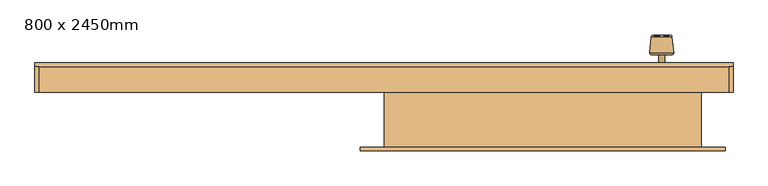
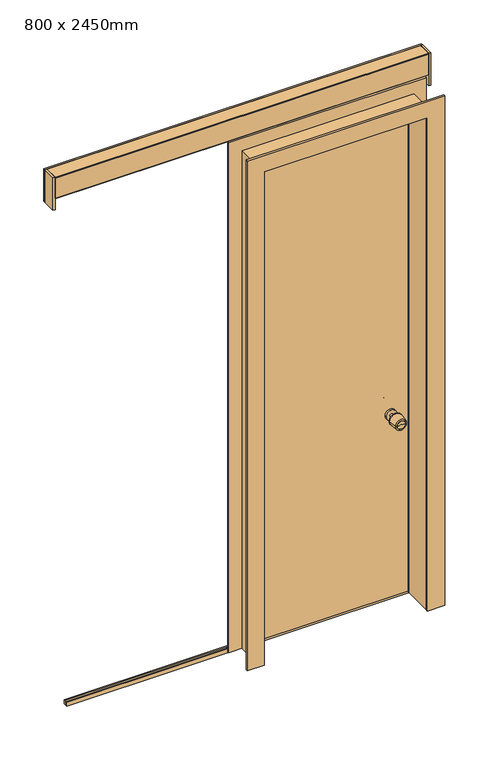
"""IFC4 building model written with IfcOpenShell, lengths in millimetres: door geometry, 单扇推拉门 - 墙外 : 800 x 2450mm."""

from ifc_helpers import new_model, si_unit, point, frame, frame_2d, origin, origin_with_axes, place, context, project, spatial, polyline, circle_curve, ellipse_curve, trimmed, segment, composite_curve, outline, extrude, source, transform, mapped, element, save
from ifc_brep_helpers import plane_surface, revolved_surface, advanced_brep


def door_800_x_2450mm_f909f3a4(model_context):
    return source(origin(), model_context, "Body", "SolidModel", [
        advanced_brep(
        [(300.0, 164.0, 900.0), (275.0, 164.0, 900.0), (325.0, 164.0, 900.0), (320.0, 214.0, 900.0), (280.0, 214.0, 900.0), (300.0, 212.0369945, 900.0), (321.0, 214.0, 900.0), (279.0, 214.0, 900.0), (325.975186, 209.4975186, 900.0), (274.024814, 209.4975186, 900.0), (329.975186, 169.4975186, 900.0), (270.024814, 169.4975186, 900.0)],
        [
            (0, 1),
            (1, 2, circle_curve(frame((300.0, 164.0, 900.0), z_axis=(0.0, -1.0, 0.0), x_axis=(-1.0, 0.0, 0.0)), 25.0)),
            (2, 0),
            (2, 1, circle_curve(frame((300.0, 164.0, 900.0), z_axis=(0.0, -1.0, 0.0), x_axis=(-1.0, 0.0, 0.0)), 25.0)),
            (3, 4, circle_curve(frame((300.0, 214.0, 900.0), z_axis=(0.0, 1.0, 0.0), x_axis=(-1.0, 0.0, 0.0)), 20.0)),
            (4, 5, circle_curve(frame((300.0, 314.9030805, 900.0), z_axis=(0.0, 0.0, 1.0), x_axis=(1.0, 0.0, 0.0)), 102.8660861)),
            (5, 3, circle_curve(frame((300.0, 314.9030805, 900.0), z_axis=(0.0, 0.0, 1.0), x_axis=(-1.0, 0.0, 0.0)), 102.8660861)),
            (4, 3, circle_curve(frame((300.0, 214.0, 900.0), z_axis=(0.0, 1.0, 0.0), x_axis=(-1.0, 0.0, 0.0)), 20.0)),
            (6, 7, circle_curve(frame((300.0, 214.0, 900.0), z_axis=(0.0, 1.0, 0.0), x_axis=(-1.0, 0.0, 0.0)), 21.0)),
            (7, 4),
            (3, 6),
            (7, 6, circle_curve(frame((300.0, 214.0, 900.0), z_axis=(0.0, 1.0, 0.0), x_axis=(-1.0, 0.0, 0.0)), 21.0)),
            (8, 9, circle_curve(frame((300.0, 209.4975186, 900.0), z_axis=(0.0, 1.0, 0.0), x_axis=(-1.0, 0.0, 0.0)), 25.975186)),
            (9, 7, circle_curve(frame((279.0, 209.0, 900.0), z_axis=(0.0, 0.0, -1.0), x_axis=(1.0, 0.0, 0.0)), 5.0)),
            (6, 8, circle_curve(frame((321.0, 209.0, 900.0), z_axis=(0.0, 0.0, -1.0), x_axis=(-1.0, 0.0, 0.0)), 5.0)),
            (9, 8, circle_curve(frame((300.0, 209.4975186, 900.0), z_axis=(0.0, 1.0, 0.0), x_axis=(-1.0, 0.0, 0.0)), 25.975186)),
            (10, 11, circle_curve(frame((300.0, 169.4975186, 900.0), z_axis=(0.0, 1.0, 0.0), x_axis=(-1.0, 0.0, 0.0)), 29.975186)),
            (11, 9),
            (8, 10),
            (11, 10, circle_curve(frame((300.0, 169.4975186, 900.0), z_axis=(0.0, 1.0, 0.0), x_axis=(-1.0, 0.0, 0.0)), 29.975186)),
            (1, 11, circle_curve(frame((275.0, 169.0, 900.0), z_axis=(0.0, 0.0, -1.0), x_axis=(1.0, 0.0, 0.0)), 5.0)),
            (10, 2, circle_curve(frame((325.0, 169.0, 900.0), z_axis=(0.0, 0.0, -1.0), x_axis=(-1.0, 0.0, 0.0)), 5.0)),
        ],
        [
            plane_surface(frame((300.0, 164.0, 900.0), z_axis=(0.0, -1.0, 0.0), x_axis=(-1.0, 0.0, 0.0))),
            revolved_surface(trimmed(ellipse_curve(frame((300.0, 314.9030805, 900.0), z_axis=(0.0, 0.0, -1.0), x_axis=(1.0, 0.0, 0.0)), 102.8660861, 102.8660861), [point((300.0, 212.0369945, 900.0))], [point((280.0, 214.0, 900.0))], True, "CARTESIAN"), (300.0, 212.0369945, 900.0), (0.0, -1.0, 0.0)),
            plane_surface(frame((300.0, 214.0, 900.0), z_axis=(0.0, 1.0, 0.0), x_axis=(-1.0, 0.0, 0.0))),
            revolved_surface(trimmed(ellipse_curve(frame((279.0, 209.0, 900.0), z_axis=(0.0, 0.0, 1.0), x_axis=(1.0, 0.0, 0.0)), 5.0, 5.0), [point((279.0, 214.0, 900.0))], [point((274.024814, 209.4975186, 900.0))], True, "CARTESIAN"), (300.0, 212.0369945, 900.0), (0.0, -1.0, 0.0)),
            revolved_surface(polyline([(274.024814, 209.4975186, 900.0), (270.024814, 169.4975186, 900.0)]), (300.0, 212.0369945, 900.0), (0.0, -1.0, 0.0)),
            revolved_surface(trimmed(ellipse_curve(frame((275.0, 169.0, 900.0), z_axis=(0.0, 0.0, 1.0), x_axis=(1.0, 0.0, 0.0)), 5.0, 5.0), [point((270.024814, 169.4975186, 900.0))], [point((275.0, 164.0, 900.0))], True, "CARTESIAN"), (300.0, 212.0369945, 900.0), (0.0, -1.0, 0.0)),
        ],
        [
            (0, [[1, 2, 3]]),
            (0, [[-3, 4, -1]]),
            (1, [[5, 6, 7]]),
            (1, [[8, -7, -6]]),
            (2, [[9, 10, -5, 11]]),
            (2, [[12, -11, -8, -10]]),
            (3, [[13, 14, -9, 15]]),
            (3, [[16, -15, -12, -14]]),
            (4, [[17, 18, -13, 19]]),
            (4, [[20, -19, -16, -18]]),
            (5, [[-2, 21, -17, 22]]),
            (5, [[-4, -22, -20, -21]]),
        ],
    ),
        extrude(outline(composite_curve([segment(trimmed(circle_curve(frame_2d((900.0, 300.0)), 8.0), [point((900.0, 292.0))], [point((900.0, 308.0))], False, "CARTESIAN"), True, "CONTINUOUS"), segment(trimmed(circle_curve(frame_2d((900.0, 300.0)), 8.0), [point((900.0, 308.0))], [point((900.0, 292.0))], False, "CARTESIAN"), True, "CONTINUOUS")], self_intersect=False)), frame((0.0, 134.0, 0.0), z_axis=(0.0, 1.0, 0.0), x_axis=(0.0, 0.0, 1.0)), (0.0, 0.0, 1.0), 30.0),
        advanced_brep(
        [(329.975186, 38.5024814, 900.0), (270.024814, 38.5024814, 900.0), (275.0, 44.0, 900.0), (325.0, 44.0, 900.0), (325.975186, -1.4975186, 900.0), (274.024814, -1.4975186, 900.0), (321.0, -6.0, 900.0), (279.0, -6.0, 900.0), (320.0, -6.0, 900.0), (280.0, -6.0, 900.0), (300.0, -4.0369945, 900.0), (300.0, 44.0, 900.0)],
        [
            (0, 1, circle_curve(frame((300.0, 38.5024814, 900.0), z_axis=(0.0, 1.0, 0.0), x_axis=(-1.0, 0.0, 0.0)), 29.975186)),
            (1, 2, circle_curve(frame((275.0, 39.0, 900.0), z_axis=(0.0, 0.0, -1.0), x_axis=(1.0, 0.0, 0.0)), 5.0)),
            (2, 3, circle_curve(frame((300.0, 44.0, 900.0), z_axis=(0.0, -1.0, 0.0), x_axis=(-1.0, 0.0, 0.0)), 25.0)),
            (3, 0, circle_curve(frame((325.0, 39.0, 900.0), z_axis=(0.0, 0.0, -1.0), x_axis=(-1.0, 0.0, 0.0)), 5.0)),
            (1, 0, circle_curve(frame((300.0, 38.5024814, 900.0), z_axis=(0.0, 1.0, 0.0), x_axis=(-1.0, 0.0, 0.0)), 29.975186)),
            (3, 2, circle_curve(frame((300.0, 44.0, 900.0), z_axis=(0.0, -1.0, 0.0), x_axis=(-1.0, 0.0, 0.0)), 25.0)),
            (4, 5, circle_curve(frame((300.0, -1.4975186, 900.0), z_axis=(0.0, 1.0, 0.0), x_axis=(-1.0, 0.0, 0.0)), 25.975186)),
            (5, 1),
            (0, 4),
            (5, 4, circle_curve(frame((300.0, -1.4975186, 900.0), z_axis=(0.0, 1.0, 0.0), x_axis=(-1.0, 0.0, 0.0)), 25.975186)),
            (6, 7, circle_curve(frame((300.0, -6.0, 900.0), z_axis=(0.0, 1.0, 0.0), x_axis=(-1.0, 0.0, 0.0)), 21.0)),
            (7, 5, circle_curve(frame((279.0, -1.0, 900.0), z_axis=(0.0, 0.0, -1.0), x_axis=(1.0, 0.0, 0.0)), 5.0)),
            (4, 6, circle_curve(frame((321.0, -1.0, 900.0), z_axis=(0.0, 0.0, -1.0), x_axis=(-1.0, 0.0, 0.0)), 5.0)),
            (7, 6, circle_curve(frame((300.0, -6.0, 900.0), z_axis=(0.0, 1.0, 0.0), x_axis=(-1.0, 0.0, 0.0)), 21.0)),
            (8, 9, circle_curve(frame((300.0, -6.0, 900.0), z_axis=(0.0, 1.0, 0.0), x_axis=(-1.0, 0.0, 0.0)), 20.0)),
            (9, 7),
            (6, 8),
            (9, 8, circle_curve(frame((300.0, -6.0, 900.0), z_axis=(0.0, 1.0, 0.0), x_axis=(-1.0, 0.0, 0.0)), 20.0)),
            (10, 9, circle_curve(frame((300.0, -106.9030805, 900.0), z_axis=(0.0, 0.0, 1.0), x_axis=(1.0, 0.0, 0.0)), 102.8660861)),
            (8, 10, circle_curve(frame((300.0, -106.9030805, 900.0), z_axis=(0.0, 0.0, 1.0), x_axis=(-1.0, 0.0, 0.0)), 102.8660861)),
            (2, 11),
            (11, 3),
        ],
        [
            revolved_surface(trimmed(ellipse_curve(frame((275.0, 39.0, 900.0), z_axis=(0.0, 0.0, 1.0), x_axis=(1.0, 0.0, 0.0)), 5.0, 5.0), [point((275.0, 44.0, 900.0))], [point((270.024814, 38.5024814, 900.0))], True, "CARTESIAN"), (300.0, -4.0369945, 900.0), (0.0, -1.0, 0.0)),
            revolved_surface(polyline([(270.024814, 38.5024814, 900.0), (274.024814, -1.4975186, 900.0)]), (300.0, -4.0369945, 900.0), (0.0, -1.0, 0.0)),
            revolved_surface(trimmed(ellipse_curve(frame((279.0, -1.0, 900.0), z_axis=(0.0, 0.0, 1.0), x_axis=(1.0, 0.0, 0.0)), 5.0, 5.0), [point((274.024814, -1.4975186, 900.0))], [point((279.0, -6.0, 900.0))], True, "CARTESIAN"), (300.0, -4.0369945, 900.0), (0.0, -1.0, 0.0)),
            plane_surface(frame((300.0, -6.0, 900.0), z_axis=(0.0, -1.0, 0.0), x_axis=(-1.0, 0.0, 0.0))),
            revolved_surface(trimmed(ellipse_curve(frame((300.0, -106.9030805, 900.0), z_axis=(0.0, 0.0, -1.0), x_axis=(1.0, 0.0, 0.0)), 102.8660861, 102.8660861), [point((280.0, -6.0, 900.0))], [point((300.0, -4.0369945, 900.0))], True, "CARTESIAN"), (300.0, -4.0369945, 900.0), (0.0, -1.0, 0.0)),
            plane_surface(frame((300.0, 44.0, 900.0), z_axis=(0.0, 1.0, 0.0), x_axis=(-1.0, 0.0, 0.0))),
        ],
        [
            (0, [[1, 2, 3, 4]]),
            (0, [[5, -4, 6, -2]]),
            (1, [[7, 8, -1, 9]]),
            (1, [[10, -9, -5, -8]]),
            (2, [[11, 12, -7, 13]]),
            (2, [[14, -13, -10, -12]]),
            (3, [[15, 16, -11, 17]]),
            (3, [[18, -17, -14, -16]]),
            (4, [[19, -15, 20]]),
            (4, [[-20, -18, -19]]),
            (5, [[-3, 21, 22]]),
            (5, [[-6, -22, -21]]),
        ],
    ),
        extrude(outline(composite_curve([segment(trimmed(circle_curve(frame_2d((900.0, 300.0)), 8.0), [point((900.0, 292.0))], [point((900.0, 308.0))], False, "CARTESIAN"), True, "CONTINUOUS"), segment(trimmed(circle_curve(frame_2d((900.0, 300.0)), 8.0), [point((900.0, 308.0))], [point((900.0, 292.0))], False, "CARTESIAN"), True, "CONTINUOUS")], self_intersect=False)), frame((0.0, 44.0, 0.0), z_axis=(0.0, 1.0, 0.0), x_axis=(0.0, 0.0, 1.0)), (0.0, 0.0, 1.0), 30.0),
        extrude(outline(composite_curve([segment(trimmed(circle_curve(frame_2d((900.0, 300.0)), 25.0), [point((900.0, 275.0))], [point((900.0, 325.0))], False, "CARTESIAN"), True, "CONTINUOUS"), segment(trimmed(circle_curve(frame_2d((900.0, 300.0)), 25.0), [point((900.0, 325.0))], [point((900.0, 275.0))], False, "CARTESIAN"), True, "CONTINUOUS")], self_intersect=False)), frame((0.0, 124.0, 0.0), z_axis=(0.0, 1.0, 0.0), x_axis=(0.0, 0.0, 1.0)), (0.0, 0.0, 1.0), 10.0),
        extrude(outline(composite_curve([segment(trimmed(circle_curve(frame_2d((900.0, 300.0)), 25.0), [point((900.0, 275.0))], [point((900.0, 325.0))], False, "CARTESIAN"), True, "CONTINUOUS"), segment(trimmed(circle_curve(frame_2d((900.0, 300.0)), 25.0), [point((900.0, 325.0))], [point((900.0, 275.0))], False, "CARTESIAN"), True, "CONTINUOUS")], self_intersect=False)), frame((0.0, 74.0, 0.0), z_axis=(0.0, 1.0, 0.0), x_axis=(0.0, 0.0, 1.0)), (0.0, 0.0, 1.0), 10.0),
        extrude(outline(polyline([(84.0, 2545.0), (84.0, 2595.0), (124.0, 2595.0), (124.0, 2475.0), (84.0, 2475.0), (84.0, 2485.0), (114.0, 2485.0), (114.0, 2545.0), (84.0, 2545.0)])), frame((-400.0, 0.0, 0.0), z_axis=(1.0, 0.0, 0.0), x_axis=(0.0, 1.0, 0.0)), (0.0, 0.0, 1.0), 800.0),
        extrude(outline(polyline([(-1270.0, 134.0), (-1270.0, 69.0), (-1280.0, 69.0), (-1280.0, 134.0), (-1270.0, 134.0)])), frame((0.0, 0.0, 2465.0), z_axis=(0.0, 0.0, 1.0), x_axis=(1.0, 0.0, 0.0)), (0.0, 0.0, 1.0), 160.0),
        extrude(outline(polyline([(480.0, 134.0), (480.0, 69.0), (470.0, 69.0), (470.0, 134.0), (480.0, 134.0)])), frame((0.0, 0.0, 2465.0), z_axis=(0.0, 0.0, 1.0), x_axis=(1.0, 0.0, 0.0)), (0.0, 0.0, 1.0), 160.0),
        extrude(outline(polyline([(109.0, 2595.0), (79.0, 2595.0), (79.0, 2545.0), (109.0, 2545.0), (109.0, 2520.0), (69.0, 2520.0), (69.0, 2620.0), (109.0, 2620.0), (109.0, 2595.0)])), frame((-1270.0, 0.0, 0.0), z_axis=(1.0, 0.0, 0.0), x_axis=(0.0, 1.0, 0.0)), (0.0, 0.0, 1.0), 1740.0),
        extrude(outline(polyline([(480.0, 144.0), (480.0, 134.0), (-1280.0, 134.0), (-1280.0, 144.0), (480.0, 144.0)])), frame((0.0, 0.0, 2465.0), z_axis=(0.0, 0.0, 1.0), x_axis=(1.0, 0.0, 0.0)), (0.0, 0.0, 1.0), 160.0),
        extrude(outline(polyline([(134.0, 2625.0), (134.0, 2605.0), (129.0, 2605.0), (129.0, 2620.0), (69.0, 2620.0), (69.0, 2625.0), (134.0, 2625.0)])), frame((-1270.0, 0.0, 0.0), z_axis=(1.0, 0.0, 0.0), x_axis=(0.0, 1.0, 0.0)), (0.0, 0.0, 1.0), 1740.0),
        extrude(outline(polyline([(0.0, -400.0), (0.0, -380.0), (2430.0, -380.0), (2430.0, 380.0), (0.0, 380.0), (0.0, 400.0), (2450.0, 400.0), (2450.0, -400.0), (0.0, -400.0)])), frame((0.0, -69.0, 0.0), z_axis=(0.0, 1.0, 0.0), x_axis=(0.0, 0.0, 1.0)), (0.0, 0.0, 1.0), 138.0),
        extrude(outline(polyline([(400.0, 124.0), (400.0, 84.0), (-400.0, 84.0), (-400.0, 124.0), (400.0, 124.0)])), origin_with_axes(), (0.0, 0.0, 1.0), 2475.0),
        extrude(outline(polyline([(0.0, -460.0), (0.0, -380.0), (2430.0, -380.0), (2430.0, 380.0), (0.0, 380.0), (0.0, 460.0), (2510.0, 460.0), (2510.0, -460.0), (0.0, -460.0)])), frame((0.0, 69.0, 0.0), z_axis=(0.0, 1.0, 0.0), x_axis=(0.0, 0.0, 1.0)), (0.0, 0.0, 1.0), 9.0),
        extrude(outline(polyline([(0.0, -460.0), (0.0, -380.0), (2430.0, -380.0), (2430.0, 380.0), (0.0, 380.0), (0.0, 460.0), (2510.0, 460.0), (2510.0, -460.0), (0.0, -460.0)])), frame((0.0, -78.0, 0.0), z_axis=(0.0, 1.0, 0.0), x_axis=(0.0, 0.0, 1.0)), (0.0, 0.0, 1.0), 9.0),
        extrude(outline(polyline([(114.0, -20.0), (94.0, -20.0), (94.0, 0.0), (99.0, 0.0), (99.0, -15.0), (109.0, -15.0), (109.0, 0.0), (114.0, 0.0), (114.0, -20.0)])), frame((-1200.0, 0.0, 0.0), z_axis=(1.0, 0.0, 0.0), x_axis=(0.0, 1.0, 0.0)), (0.0, 0.0, 1.0), 1600.0),
        extrude(outline(polyline([(400.0, 109.0), (400.0, 99.0), (-400.0, 99.0), (-400.0, 109.0), (400.0, 109.0)])), frame((0.0, 0.0, -12.5), z_axis=(0.0, 0.0, 1.0), x_axis=(1.0, 0.0, 0.0)), (0.0, 0.0, 1.0), 10.0),
        extrude(outline(polyline([(450.0, 106.5), (450.0, 101.5), (-450.0, 101.5), (-450.0, 106.5), (450.0, 106.5)])), frame((0.0, 0.0, -2.5), z_axis=(0.0, 0.0, 1.0), x_axis=(1.0, 0.0, 0.0)), (0.0, 0.0, 1.0), 2.5),
    ])


if __name__ == "__main__":
    model = new_model("IFC4")
    model_context = context("Model", 3, world=origin())
    ifc_project = project(units=[si_unit("LENGTHUNIT", "METRE", prefix="MILLI")], contexts=[model_context])
    site = spatial("IfcSite", under=ifc_project)
    building = spatial("IfcBuilding", under=site)
    placement = place(None, origin())
    door_800_x_2450mm_shape = door_800_x_2450mm_f909f3a4(model_context)
    element("IfcDoor", 1, ObjectType="单扇推拉门 - 墙外 : 800 x 2450mm", at=placement, inside=building, context=model_context, shape_type="MappedRepresentation", body=[
        mapped(door_800_x_2450mm_shape, transform((0.0, 0.0, 0.0), x_axis=(1.0, 0.0, 0.0), y_axis=(0.0, 1.0, 0.0), z_axis=(0.0, 0.0, 1.0))),
    ])
    save(model, "model.ifc")
